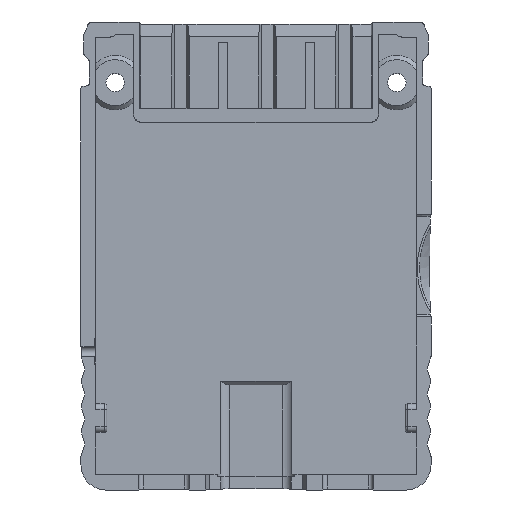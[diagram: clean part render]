
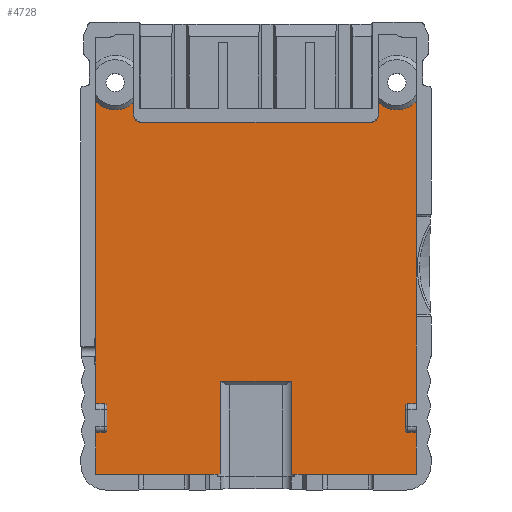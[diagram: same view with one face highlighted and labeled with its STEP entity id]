
A CAD part, top view. The second image highlights one B-rep face of the part: STEP entity #4728.
In plain terms, the highlighted planar face has unit normal (0, 0, 1).
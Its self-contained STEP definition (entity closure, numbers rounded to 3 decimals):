
#50=DIRECTION('',(0.,1.,0.));
#51=VECTOR('',#50,44.578);
#52=CARTESIAN_POINT('',(19.174,-26.25,-3.));
#53=LINE('',#52,#51);
#1154=CARTESIAN_POINT('',(4.207,-15.11,-3.));
#1156=DIRECTION('',(0.,-1.,0.));
#1157=VECTOR('',#1156,11.14);
#1158=CARTESIAN_POINT('',(4.207,-15.11,-3.));
#1159=LINE('',#1158,#1157);
#1168=DIRECTION('',(1.,0.,0.));
#1169=VECTOR('',#1168,8.415);
#1170=CARTESIAN_POINT('',(-4.207,-15.11,-3.));
#1171=LINE('',#1170,#1169);
#1182=DIRECTION('',(-1.,0.,0.));
#1183=VECTOR('',#1182,14.966);
#1184=CARTESIAN_POINT('',(-4.207,-26.25,-3.));
#1185=LINE('',#1184,#1183);
#1186=DIRECTION('',(0.,1.,0.));
#1187=VECTOR('',#1186,44.578);
#1188=CARTESIAN_POINT('',(-19.174,-26.25,-3.));
#1189=LINE('',#1188,#1187);
#1190=CARTESIAN_POINT('',(-16.85,20.6,-3.));
#1191=DIRECTION('',(0.,0.,1.));
#1192=DIRECTION('',(-0.715,-0.699,0.));
#1193=AXIS2_PLACEMENT_3D('',#1190,#1191,#1192);
#1195=DIRECTION('',(0.,-1.,0.));
#1196=VECTOR('',#1195,1.36);
#1197=CARTESIAN_POINT('',(-14.676,18.184,-3.));
#1198=LINE('',#1197,#1196);
#1199=CARTESIAN_POINT('',(-14.676,16.824,-3.));
#1200=CARTESIAN_POINT('',(-14.676,16.657,-3.));
#1201=CARTESIAN_POINT('',(-14.604,16.396,-3.));
#1202=CARTESIAN_POINT('',(-14.398,16.102,-3.));
#1203=CARTESIAN_POINT('',(-14.104,15.896,-3.));
#1204=CARTESIAN_POINT('',(-13.843,15.824,-3.));
#1205=CARTESIAN_POINT('',(-13.676,15.824,-3.));
#1207=CARTESIAN_POINT('',(16.85,20.6,-3.));
#1208=DIRECTION('',(0.,0.,1.));
#1209=DIRECTION('',(-0.669,-0.743,0.));
#1210=AXIS2_PLACEMENT_3D('',#1207,#1208,#1209);
#1216=DIRECTION('',(0.,1.,0.));
#1217=VECTOR('',#1216,11.14);
#1218=CARTESIAN_POINT('',(-4.207,-26.25,-3.));
#1219=LINE('',#1218,#1217);
#2105=DIRECTION('',(0.,-1.,0.));
#2106=VECTOR('',#2105,1.36);
#2107=CARTESIAN_POINT('',(14.676,18.184,-3.));
#2108=LINE('',#2107,#2106);
#2121=CARTESIAN_POINT('',(14.676,16.824,-3.));
#2122=CARTESIAN_POINT('',(14.676,16.657,-3.));
#2123=CARTESIAN_POINT('',(14.604,16.396,-3.));
#2124=CARTESIAN_POINT('',(14.398,16.102,-3.));
#2125=CARTESIAN_POINT('',(14.104,15.896,-3.));
#2126=CARTESIAN_POINT('',(13.843,15.824,-3.));
#2127=CARTESIAN_POINT('',(13.676,15.824,-3.));
#2137=DIRECTION('',(-1.,0.,0.));
#2138=VECTOR('',#2137,27.352);
#2139=CARTESIAN_POINT('',(13.676,15.824,-3.));
#2140=LINE('',#2139,#2138);
#2162=DIRECTION('',(1.,0.,0.));
#2163=VECTOR('',#2162,14.966);
#2164=CARTESIAN_POINT('',(4.207,-26.25,-3.));
#2165=LINE('',#2164,#2163);
#2626=VERTEX_POINT('',#1154);
#2627=CARTESIAN_POINT('',(4.207,-26.25,-3.));
#2628=VERTEX_POINT('',#2627);
#2633=CARTESIAN_POINT('',(-4.207,-15.11,-3.));
#2634=VERTEX_POINT('',#2633);
#2635=CARTESIAN_POINT('',(-4.207,-26.25,-3.));
#2636=VERTEX_POINT('',#2635);
#2637=CARTESIAN_POINT('',(-19.174,-26.25,-3.));
#2638=VERTEX_POINT('',#2637);
#2639=CARTESIAN_POINT('',(-19.174,18.328,-3.));
#2640=VERTEX_POINT('',#2639);
#2641=CARTESIAN_POINT('',(-14.676,18.184,-3.));
#2642=VERTEX_POINT('',#2641);
#2643=CARTESIAN_POINT('',(-14.676,16.824,-3.));
#2644=VERTEX_POINT('',#2643);
#2645=VERTEX_POINT('',#1205);
#2646=CARTESIAN_POINT('',(13.676,15.824,-3.));
#2647=VERTEX_POINT('',#2646);
#2648=VERTEX_POINT('',#2121);
#2649=CARTESIAN_POINT('',(14.676,18.184,-3.));
#2650=VERTEX_POINT('',#2649);
#2651=CARTESIAN_POINT('',(19.174,18.328,-3.));
#2652=VERTEX_POINT('',#2651);
#2653=CARTESIAN_POINT('',(19.174,-26.25,-3.));
#2654=VERTEX_POINT('',#2653);
#4698=CARTESIAN_POINT('',(0.,0.,-3.));
#4699=DIRECTION('',(0.,0.,1.));
#4700=DIRECTION('',(1.,0.,0.));
#4701=AXIS2_PLACEMENT_3D('',#4698,#4699,#4700);
#4702=PLANE('',#4701);
#4703=ORIENTED_EDGE('',*,*,#4689,.F.);
#4705=ORIENTED_EDGE('',*,*,#4704,.F.);
#4706=ORIENTED_EDGE('',*,*,#4425,.T.);
#4707=ORIENTED_EDGE('',*,*,#3874,.T.);
#4709=ORIENTED_EDGE('',*,*,#4708,.T.);
#4711=ORIENTED_EDGE('',*,*,#4710,.T.);
#4713=ORIENTED_EDGE('',*,*,#4712,.T.);
#4715=ORIENTED_EDGE('',*,*,#4714,.F.);
#4717=ORIENTED_EDGE('',*,*,#4716,.F.);
#4719=ORIENTED_EDGE('',*,*,#4718,.F.);
#4721=ORIENTED_EDGE('',*,*,#4720,.T.);
#4722=ORIENTED_EDGE('',*,*,#3294,.F.);
#4724=ORIENTED_EDGE('',*,*,#4723,.F.);
#4725=ORIENTED_EDGE('',*,*,#4661,.F.);
#4726=EDGE_LOOP('',(#4703,#4705,#4706,#4707,#4709,#4711,#4713,#4715,#4717,#4719,
#4721,#4722,#4724,#4725));
#4727=FACE_OUTER_BOUND('',#4726,.F.);
#1194=CIRCLE('',#1193,3.25);
#1206=B_SPLINE_CURVE_WITH_KNOTS('',3,(#1199,#1200,#1201,#1202,#1203,#1204,
#1205),.UNSPECIFIED.,.F.,.F.,(4,1,1,1,4),(0.,0.25,0.5,0.75,1.),
.UNSPECIFIED.);
#1211=CIRCLE('',#1210,3.25);
#2128=B_SPLINE_CURVE_WITH_KNOTS('',3,(#2121,#2122,#2123,#2124,#2125,#2126,
#2127),.UNSPECIFIED.,.F.,.F.,(4,1,1,1,4),(0.,0.25,0.5,0.75,1.),
.UNSPECIFIED.);
#3294=EDGE_CURVE('',#2654,#2652,#53,.T.);
#3874=EDGE_CURVE('',#2638,#2640,#1189,.T.);
#4425=EDGE_CURVE('',#2636,#2638,#1185,.T.);
#4661=EDGE_CURVE('',#2626,#2628,#1159,.T.);
#4689=EDGE_CURVE('',#2634,#2626,#1171,.T.);
#4704=EDGE_CURVE('',#2636,#2634,#1219,.T.);
#4708=EDGE_CURVE('',#2640,#2642,#1194,.T.);
#4710=EDGE_CURVE('',#2642,#2644,#1198,.T.);
#4712=EDGE_CURVE('',#2644,#2645,#1206,.T.);
#4714=EDGE_CURVE('',#2647,#2645,#2140,.T.);
#4716=EDGE_CURVE('',#2648,#2647,#2128,.T.);
#4718=EDGE_CURVE('',#2650,#2648,#2108,.T.);
#4720=EDGE_CURVE('',#2650,#2652,#1211,.T.);
#4723=EDGE_CURVE('',#2628,#2654,#2165,.T.);
#4728=ADVANCED_FACE('',(#4727),#4702,.T.);
